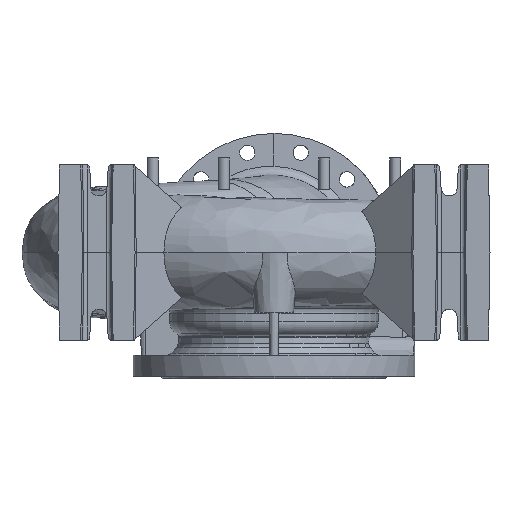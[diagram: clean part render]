
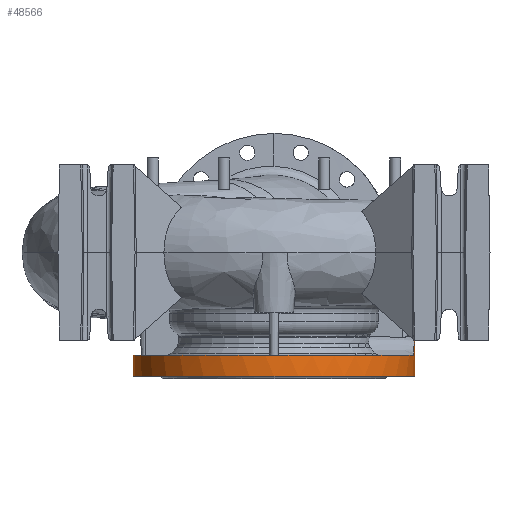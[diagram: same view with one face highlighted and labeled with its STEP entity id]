
A CAD part, front view. The second image highlights one B-rep face of the part: STEP entity #48566.
In plain terms, the highlighted cylindrical face has radius 201.027 mm (diameter 402.053 mm), a partial arc.
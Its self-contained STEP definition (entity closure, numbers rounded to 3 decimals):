
#391 = CARTESIAN_POINT ( 'NONE',  ( 201.027, 0., -120.368 ) ) ;
#504 = CARTESIAN_POINT ( 'NONE',  ( 199.612, -23.805, -138.981 ) ) ;
#684 = CARTESIAN_POINT ( 'NONE',  ( 200.317, -16.887, -127.084 ) ) ;
#841 = CARTESIAN_POINT ( 'NONE',  ( 201.027, 0., -108.586 ) ) ;
#866 = CARTESIAN_POINT ( 'NONE',  ( 201.005, -3.383, -120.544 ) ) ;
#1207 = VECTOR ( 'NONE', #21671, 1000. ) ;
#1790 = AXIS2_PLACEMENT_3D ( 'NONE', #16500, #45355, #20667 ) ;
#3002 = CARTESIAN_POINT ( 'NONE',  ( -201.027, 0., -146.961 ) ) ;
#4647 = CARTESIAN_POINT ( 'NONE',  ( 199.652, -23.465, -137.75 ) ) ;
#4822 = CARTESIAN_POINT ( 'NONE',  ( 200.42, -15.613, -125.971 ) ) ;
#4975 = VECTOR ( 'NONE', #32925, 1000. ) ;
#5009 = CARTESIAN_POINT ( 'NONE',  ( 201.027, 0., -120.368 ) ) ;
#5576 = AXIS2_PLACEMENT_3D ( 'NONE', #9783, #38669, #13955 ) ;
#7391 = ORIENTED_EDGE ( 'NONE', *, *, #12302, .T. ) ;
#8624 = FACE_OUTER_BOUND ( 'NONE', #24892, .T. ) ;
#8776 = B_SPLINE_CURVE_WITH_KNOTS ( 'NONE', 3,
 ( #37499, #16571, #21083, #49948, #25222, #504, #29358, #4647, #33528, #8794, #37673, #12964, #41841, #17106, #45964, #21273, #50127, #25394, #684, #29536, #4822, #33707, #8984, #37859, #13139, #42032, #17293, #46148, #21453, #50321, #25580, #866, #29719, #5009 ),
 .UNSPECIFIED., .F., .F.,
 ( 4, 2, 2, 2, 2, 2, 2, 2, 2, 2, 2, 2, 2, 2, 2, 2, 4 ),
 ( 0.017, 0.022, 0.024, 0.026, 0.027, 0.032, 0.033, 0.034, 0.037, 0.039, 0.041, 0.042, 0.047, 0.048, 0.05, 0.052, 0.057 ),
 .UNSPECIFIED. ) ;
#8794 = CARTESIAN_POINT ( 'NONE',  ( 199.747, -22.656, -135.347 ) ) ;
#8984 = CARTESIAN_POINT ( 'NONE',  ( 200.496, -14.606, -125.184 ) ) ;
#9783 = CARTESIAN_POINT ( 'NONE',  ( 0., 0., -176.961 ) ) ;
#10784 = CIRCLE ( 'NONE', #1790, 201.027 ) ;
#11477 = VERTEX_POINT ( 'NONE', #44540 ) ;
#12302 = EDGE_CURVE ( 'NONE', #15432, #44545, #29505, .T. ) ;
#12351 = CARTESIAN_POINT ( 'NONE',  ( -201.027, 0., -108.586 ) ) ;
#12964 = CARTESIAN_POINT ( 'NONE',  ( 199.941, -20.867, -131.995 ) ) ;
#13098 = ORIENTED_EDGE ( 'NONE', *, *, #24844, .F. ) ;
#13139 = CARTESIAN_POINT ( 'NONE',  ( 200.708, -11.416, -123.12 ) ) ;
#13440 = CARTESIAN_POINT ( 'NONE',  ( -201.027, 0., -176.961 ) ) ;
#13955 = DIRECTION ( 'NONE',  ( -1., 0., 0. ) ) ;
#15432 = VERTEX_POINT ( 'NONE', #3002 ) ;
#16500 = CARTESIAN_POINT ( 'NONE',  ( 0., 0., -146.961 ) ) ;
#16571 = CARTESIAN_POINT ( 'NONE',  ( 199.519, -24.573, -145.261 ) ) ;
#17106 = CARTESIAN_POINT ( 'NONE',  ( 200.013, -20.167, -130.925 ) ) ;
#17293 = CARTESIAN_POINT ( 'NONE',  ( 200.821, -9.093, -122.111 ) ) ;
#19723 = EDGE_CURVE ( 'NONE', #25995, #48712, #28930, .T. ) ;
#19852 = CIRCLE ( 'NONE', #5576, 201.027 ) ;
#20667 = DIRECTION ( 'NONE',  ( -1., 0., 0. ) ) ;
#21083 = CARTESIAN_POINT ( 'NONE',  ( 199.523, -24.542, -143.573 ) ) ;
#21273 = CARTESIAN_POINT ( 'NONE',  ( 200.112, -19.164, -129.561 ) ) ;
#21453 = CARTESIAN_POINT ( 'NONE',  ( 200.872, -7.896, -121.669 ) ) ;
#21671 = DIRECTION ( 'NONE',  ( 0., 0., -1. ) ) ;
#24702 = AXIS2_PLACEMENT_3D ( 'NONE', #42852, #34725, #26430 ) ;
#24844 = EDGE_CURVE ( 'NONE', #48712, #44545, #19852, .T. ) ;
#24892 = EDGE_LOOP ( 'NONE', ( #34422, #50576, #45539, #7391, #13098 ) ) ;
#25222 = CARTESIAN_POINT ( 'NONE',  ( 199.578, -24.09, -140.227 ) ) ;
#25394 = CARTESIAN_POINT ( 'NONE',  ( 200.265, -17.488, -127.674 ) ) ;
#25555 = EDGE_CURVE ( 'NONE', #11477, #15432, #10784, .T. ) ;
#25580 = CARTESIAN_POINT ( 'NONE',  ( 200.943, -5.859, -121.063 ) ) ;
#25995 = VERTEX_POINT ( 'NONE', #391 ) ;
#26430 = DIRECTION ( 'NONE',  ( -1., 0., 0. ) ) ;
#26695 = EDGE_CURVE ( 'NONE', #11477, #25995, #8776, .T. ) ;
#28930 = LINE ( 'NONE', #841, #1207 ) ;
#29358 = CARTESIAN_POINT ( 'NONE',  ( 199.625, -23.698, -138.567 ) ) ;
#29505 = LINE ( 'NONE', #12351, #4975 ) ;
#29536 = CARTESIAN_POINT ( 'NONE',  ( 200.394, -15.937, -126.244 ) ) ;
#29719 = CARTESIAN_POINT ( 'NONE',  ( 201.027, -1.705, -120.368 ) ) ;
#32925 = DIRECTION ( 'NONE',  ( 0., 0., -1. ) ) ;
#33528 = CARTESIAN_POINT ( 'NONE',  ( 199.667, -23.339, -137.346 ) ) ;
#33707 = CARTESIAN_POINT ( 'NONE',  ( 200.47, -14.946, -125.441 ) ) ;
#34422 = ORIENTED_EDGE ( 'NONE', *, *, #19723, .F. ) ;
#34725 = DIRECTION ( 'NONE',  ( 0., 0., -1. ) ) ;
#36397 = CYLINDRICAL_SURFACE ( 'NONE', #24702, 201.027 ) ;
#37499 = CARTESIAN_POINT ( 'NONE',  ( 199.537, -24.427, -146.961 ) ) ;
#37673 = CARTESIAN_POINT ( 'NONE',  ( 199.826, -21.95, -133.818 ) ) ;
#37859 = CARTESIAN_POINT ( 'NONE',  ( 200.618, -12.88, -123.951 ) ) ;
#38669 = DIRECTION ( 'NONE',  ( 0., 0., -1. ) ) ;
#41841 = CARTESIAN_POINT ( 'NONE',  ( 199.964, -20.639, -131.634 ) ) ;
#42032 = CARTESIAN_POINT ( 'NONE',  ( 200.803, -9.484, -122.271 ) ) ;
#42852 = CARTESIAN_POINT ( 'NONE',  ( 0., 0., -108.586 ) ) ;
#44540 = CARTESIAN_POINT ( 'NONE',  ( 199.537, -24.427, -146.961 ) ) ;
#44545 = VERTEX_POINT ( 'NONE', #13440 ) ;
#45355 = DIRECTION ( 'NONE',  ( 0., 0., -1. ) ) ;
#45539 = ORIENTED_EDGE ( 'NONE', *, *, #25555, .T. ) ;
#45964 = CARTESIAN_POINT ( 'NONE',  ( 200.037, -19.922, -130.578 ) ) ;
#46148 = CARTESIAN_POINT ( 'NONE',  ( 200.856, -8.299, -121.81 ) ) ;
#47695 = CARTESIAN_POINT ( 'NONE',  ( 201.027, 0., -176.961 ) ) ;
#48566 = ADVANCED_FACE ( 'NONE', ( #8624 ), #36397, .T. ) ;
#48712 = VERTEX_POINT ( 'NONE', #47695 ) ;
#49948 = CARTESIAN_POINT ( 'NONE',  ( 199.56, -24.235, -141.061 ) ) ;
#50127 = CARTESIAN_POINT ( 'NONE',  ( 200.163, -18.627, -128.912 ) ) ;
#50321 = CARTESIAN_POINT ( 'NONE',  ( 200.917, -6.678, -121.279 ) ) ;
#50576 = ORIENTED_EDGE ( 'NONE', *, *, #26695, .F. ) ;
